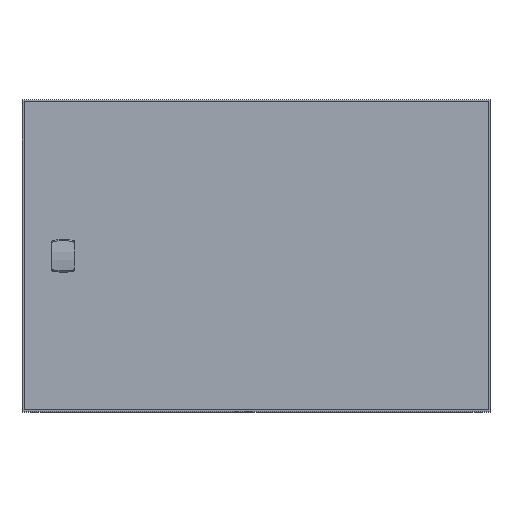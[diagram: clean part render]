
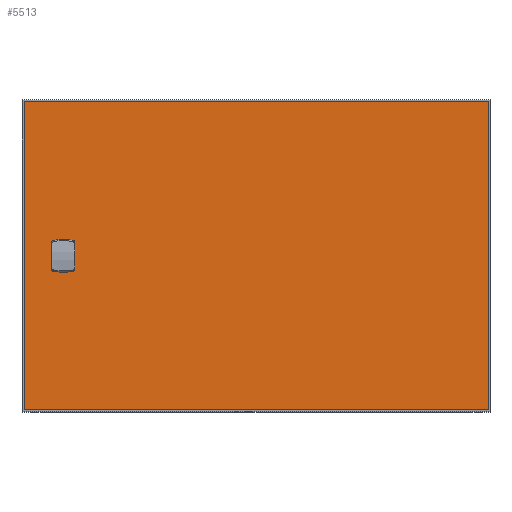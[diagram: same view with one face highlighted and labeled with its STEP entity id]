
A CAD part, top view. The second image highlights one B-rep face of the part: STEP entity #5513.
In plain terms, the highlighted planar face has unit normal (0, 0, 1).
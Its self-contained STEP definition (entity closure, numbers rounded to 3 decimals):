
#412=LINE('',#9198,#895);
#414=LINE('',#9205,#897);
#415=LINE('',#9209,#898);
#416=LINE('',#9211,#899);
#417=LINE('',#9215,#900);
#418=LINE('',#9217,#901);
#419=LINE('',#9221,#902);
#420=LINE('',#9225,#903);
#421=LINE('',#9227,#904);
#422=LINE('',#9231,#905);
#423=LINE('',#9233,#906);
#424=LINE('',#9234,#907);
#425=LINE('',#9236,#908);
#426=LINE('',#9238,#909);
#895=VECTOR('',#7559,1000.);
#897=VECTOR('',#7565,1000.);
#898=VECTOR('',#7568,1000.);
#899=VECTOR('',#7569,1000.);
#900=VECTOR('',#7572,1000.);
#901=VECTOR('',#7573,1000.);
#902=VECTOR('',#7576,1000.);
#903=VECTOR('',#7579,1000.);
#904=VECTOR('',#7580,1000.);
#905=VECTOR('',#7583,1000.);
#906=VECTOR('',#7584,1000.);
#907=VECTOR('',#7585,1000.);
#908=VECTOR('',#7586,1000.);
#909=VECTOR('',#7587,1000.);
#1771=ORIENTED_EDGE('',*,*,#2984,.F.);
#1772=ORIENTED_EDGE('',*,*,#2985,.F.);
#1773=ORIENTED_EDGE('',*,*,#2986,.F.);
#1774=ORIENTED_EDGE('',*,*,#2987,.F.);
#1775=ORIENTED_EDGE('',*,*,#2988,.F.);
#1776=ORIENTED_EDGE('',*,*,#2989,.F.);
#1777=ORIENTED_EDGE('',*,*,#2990,.F.);
#1778=ORIENTED_EDGE('',*,*,#2991,.F.);
#1779=ORIENTED_EDGE('',*,*,#2992,.F.);
#1780=ORIENTED_EDGE('',*,*,#2993,.F.);
#1781=ORIENTED_EDGE('',*,*,#2994,.F.);
#1782=ORIENTED_EDGE('',*,*,#2995,.F.);
#1783=ORIENTED_EDGE('',*,*,#2996,.F.);
#1784=ORIENTED_EDGE('',*,*,#2997,.F.);
#1785=ORIENTED_EDGE('',*,*,#2998,.F.);
#1786=ORIENTED_EDGE('',*,*,#2999,.F.);
#1787=ORIENTED_EDGE('',*,*,#3000,.T.);
#1788=ORIENTED_EDGE('',*,*,#3001,.F.);
#1789=ORIENTED_EDGE('',*,*,#3002,.F.);
#1790=ORIENTED_EDGE('',*,*,#2982,.T.);
#2982=EDGE_CURVE('',#3654,#3653,#412,.T.);
#2984=EDGE_CURVE('',#3655,#3656,#4058,.T.);
#2985=EDGE_CURVE('',#3657,#3655,#414,.T.);
#2986=EDGE_CURVE('',#3658,#3657,#4059,.T.);
#2987=EDGE_CURVE('',#3659,#3658,#415,.T.);
#2988=EDGE_CURVE('',#3660,#3659,#416,.T.);
#2989=EDGE_CURVE('',#3661,#3660,#4060,.T.);
#2990=EDGE_CURVE('',#3662,#3661,#417,.T.);
#2991=EDGE_CURVE('',#3663,#3662,#418,.T.);
#2992=EDGE_CURVE('',#3664,#3663,#4061,.T.);
#2993=EDGE_CURVE('',#3665,#3664,#419,.T.);
#2994=EDGE_CURVE('',#3666,#3665,#4062,.T.);
#2995=EDGE_CURVE('',#3667,#3666,#420,.T.);
#2996=EDGE_CURVE('',#3668,#3667,#421,.T.);
#2997=EDGE_CURVE('',#3669,#3668,#4063,.T.);
#2998=EDGE_CURVE('',#3670,#3669,#422,.T.);
#2999=EDGE_CURVE('',#3656,#3670,#423,.T.);
#3000=EDGE_CURVE('',#3653,#3671,#424,.T.);
#3001=EDGE_CURVE('',#3672,#3671,#425,.T.);
#3002=EDGE_CURVE('',#3654,#3672,#426,.T.);
#3653=VERTEX_POINT('',#9197);
#3654=VERTEX_POINT('',#9199);
#3655=VERTEX_POINT('',#9203);
#3656=VERTEX_POINT('',#9204);
#3657=VERTEX_POINT('',#9206);
#3658=VERTEX_POINT('',#9208);
#3659=VERTEX_POINT('',#9210);
#3660=VERTEX_POINT('',#9212);
#3661=VERTEX_POINT('',#9214);
#3662=VERTEX_POINT('',#9216);
#3663=VERTEX_POINT('',#9218);
#3664=VERTEX_POINT('',#9220);
#3665=VERTEX_POINT('',#9222);
#3666=VERTEX_POINT('',#9224);
#3667=VERTEX_POINT('',#9226);
#3668=VERTEX_POINT('',#9228);
#3669=VERTEX_POINT('',#9230);
#3670=VERTEX_POINT('',#9232);
#3671=VERTEX_POINT('',#9235);
#3672=VERTEX_POINT('',#9237);
#4058=CIRCLE('',#6529,11.3);
#4059=CIRCLE('',#6530,11.3);
#4060=CIRCLE('',#6531,1.25);
#4061=CIRCLE('',#6532,11.3);
#4062=CIRCLE('',#6533,11.3);
#4063=CIRCLE('',#6534,1.25);
#4415=EDGE_LOOP('',(#1771,#1772,#1773,#1774,#1775,#1776,#1777,#1778,#1779,
#1780,#1781,#1782,#1783,#1784,#1785,#1786));
#4416=EDGE_LOOP('',(#1787,#1788,#1789,#1790));
#4902=FACE_BOUND('',#4415,.T.);
#4903=FACE_BOUND('',#4416,.T.);
#5232=PLANE('',#6528);
#5513=ADVANCED_FACE('',(#4902,#4903),#5232,.F.);
#6528=AXIS2_PLACEMENT_3D('',#9201,#7561,#7562);
#6529=AXIS2_PLACEMENT_3D('',#9202,#7563,#7564);
#6530=AXIS2_PLACEMENT_3D('',#9207,#7566,#7567);
#6531=AXIS2_PLACEMENT_3D('',#9213,#7570,#7571);
#6532=AXIS2_PLACEMENT_3D('',#9219,#7574,#7575);
#6533=AXIS2_PLACEMENT_3D('',#9223,#7577,#7578);
#6534=AXIS2_PLACEMENT_3D('',#9229,#7581,#7582);
#7559=DIRECTION('',(0.,-1.,0.));
#7561=DIRECTION('',(0.,0.,-1.));
#7562=DIRECTION('',(-1.,0.,0.));
#7563=DIRECTION('',(0.,0.,1.));
#7564=DIRECTION('',(1.,0.,0.));
#7565=DIRECTION('',(0.,-1.,0.));
#7566=DIRECTION('',(0.,0.,1.));
#7567=DIRECTION('',(1.,0.,0.));
#7568=DIRECTION('',(-1.,0.,0.));
#7569=DIRECTION('',(0.,-1.,0.));
#7570=DIRECTION('',(0.,0.,1.));
#7571=DIRECTION('',(1.,0.,0.));
#7572=DIRECTION('',(0.,1.,0.));
#7573=DIRECTION('',(-1.,0.,0.));
#7574=DIRECTION('',(0.,0.,1.));
#7575=DIRECTION('',(1.,0.,0.));
#7576=DIRECTION('',(0.,1.,0.));
#7577=DIRECTION('',(0.,0.,1.));
#7578=DIRECTION('',(1.,0.,0.));
#7579=DIRECTION('',(1.,0.,0.));
#7580=DIRECTION('',(0.,1.,0.));
#7581=DIRECTION('',(0.,0.,1.));
#7582=DIRECTION('',(1.,0.,0.));
#7583=DIRECTION('',(0.,-1.,0.));
#7584=DIRECTION('',(1.,0.,0.));
#7585=DIRECTION('',(1.,0.,0.));
#7586=DIRECTION('',(0.,-1.,0.));
#7587=DIRECTION('',(1.,0.,0.));
#9197=CARTESIAN_POINT('',(-297.5,-197.5,0.));
#9198=CARTESIAN_POINT('',(-297.5,197.5,0.));
#9199=CARTESIAN_POINT('',(-297.5,197.5,0.));
#9201=CARTESIAN_POINT('',(-297.5,197.5,0.));
#9202=CARTESIAN_POINT('',(-247.5,0.,0.));
#9203=CARTESIAN_POINT('',(-257.65,-4.967,0.));
#9204=CARTESIAN_POINT('',(-252.467,-10.15,0.));
#9205=CARTESIAN_POINT('',(-257.65,4.967,0.));
#9206=CARTESIAN_POINT('',(-257.65,4.967,0.));
#9207=CARTESIAN_POINT('',(-247.5,0.,0.));
#9208=CARTESIAN_POINT('',(-252.467,10.15,0.));
#9209=CARTESIAN_POINT('',(-248.75,10.15,0.));
#9210=CARTESIAN_POINT('',(-248.75,10.15,0.));
#9211=CARTESIAN_POINT('',(-248.75,10.75,0.));
#9212=CARTESIAN_POINT('',(-248.75,10.75,0.));
#9213=CARTESIAN_POINT('',(-247.5,10.75,0.));
#9214=CARTESIAN_POINT('',(-246.25,10.75,0.));
#9215=CARTESIAN_POINT('',(-246.25,10.15,0.));
#9216=CARTESIAN_POINT('',(-246.25,10.15,0.));
#9217=CARTESIAN_POINT('',(-242.533,10.15,0.));
#9218=CARTESIAN_POINT('',(-242.533,10.15,0.));
#9219=CARTESIAN_POINT('',(-247.5,0.,0.));
#9220=CARTESIAN_POINT('',(-237.35,4.967,0.));
#9221=CARTESIAN_POINT('',(-237.35,-4.967,0.));
#9222=CARTESIAN_POINT('',(-237.35,-4.967,0.));
#9223=CARTESIAN_POINT('',(-247.5,0.,0.));
#9224=CARTESIAN_POINT('',(-242.533,-10.15,0.));
#9225=CARTESIAN_POINT('',(-246.25,-10.15,0.));
#9226=CARTESIAN_POINT('',(-246.25,-10.15,0.));
#9227=CARTESIAN_POINT('',(-246.25,-10.75,0.));
#9228=CARTESIAN_POINT('',(-246.25,-10.75,0.));
#9229=CARTESIAN_POINT('',(-247.5,-10.75,0.));
#9230=CARTESIAN_POINT('',(-248.75,-10.75,0.));
#9231=CARTESIAN_POINT('',(-248.75,-10.15,0.));
#9232=CARTESIAN_POINT('',(-248.75,-10.15,0.));
#9233=CARTESIAN_POINT('',(-252.467,-10.15,0.));
#9234=CARTESIAN_POINT('',(-297.5,-197.5,0.));
#9235=CARTESIAN_POINT('',(297.5,-197.5,0.));
#9236=CARTESIAN_POINT('',(297.5,197.5,0.));
#9237=CARTESIAN_POINT('',(297.5,197.5,0.));
#9238=CARTESIAN_POINT('',(-297.5,197.5,0.));
